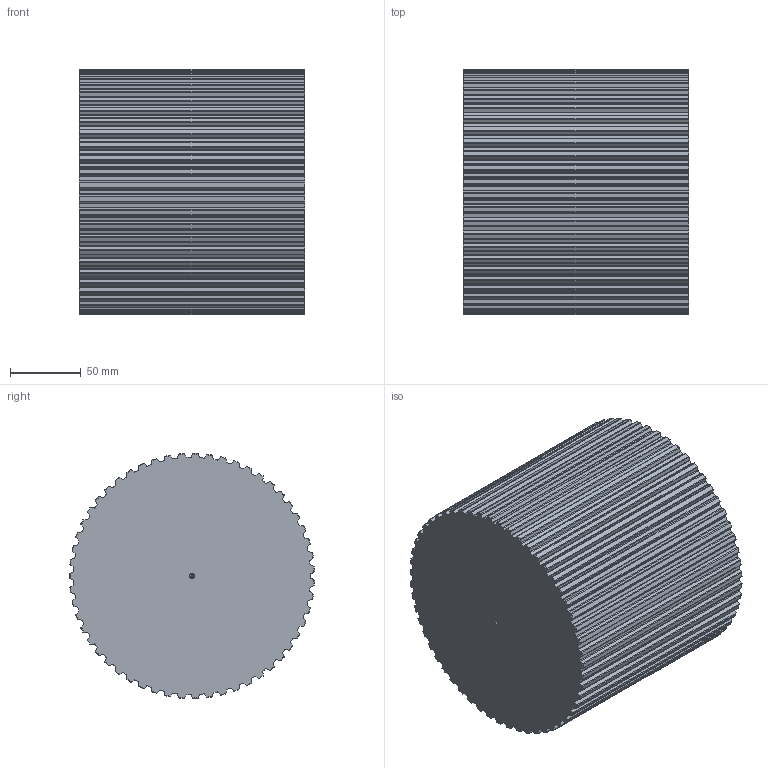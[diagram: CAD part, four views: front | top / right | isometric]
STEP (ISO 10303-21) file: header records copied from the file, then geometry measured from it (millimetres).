
FILE_DESCRIPTION(('STEP AP203'),'1');
FILE_NAME('barat_55.stp','2022-04-12T09:39:48',('TraceParts'),('TraceParts S.A.'),'Spatial InterOp 3D',' ',' ');
FILE_SCHEMA(('CONFIG_CONTROL_DESIGN'));
Length unit declared in the file: millimetre
Products named in the file (1): 1
Bounding box: 160 x 174 x 174.06 mm (x, y, z)
Volume: 3687133 mm3; surface area: 160707.2 mm2
Topology: 1 solids, 1 shells, 566 faces, 1684 edges, 1118 vertices
Faces by surface type: cylinder 334, cone 120, plane 112
Entity records: 20466 total; most frequent: CARTESIAN_POINT 5785, ORIENTED_EDGE 3360, DIRECTION 2940, EDGE_CURVE 1680, AXIS2_PLACEMENT_3D 1133, VERTEX_POINT 1118, LINE 674, VECTOR 674
